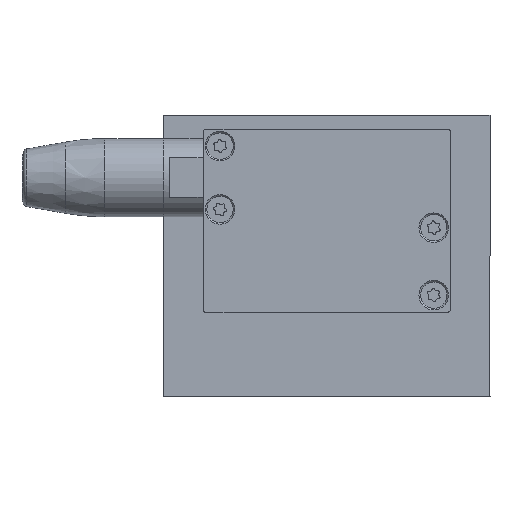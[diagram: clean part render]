
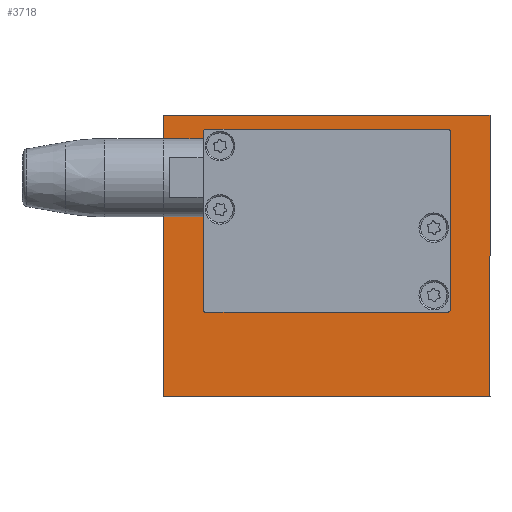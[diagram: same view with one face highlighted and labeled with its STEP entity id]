
A CAD part, top view. The second image highlights one B-rep face of the part: STEP entity #3718.
In plain terms, the highlighted planar face has unit normal (0, 0, 1).
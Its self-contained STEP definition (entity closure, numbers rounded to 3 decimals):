
#230=FACE_BOUND('',#743,.T.);
#279=PLANE('',#4275);
#514=FACE_OUTER_BOUND('',#742,.T.);
#742=EDGE_LOOP('',(#3140,#3141,#3142,#3143));
#743=EDGE_LOOP('',(#3144));
#986=LINE('',#6437,#1222);
#989=LINE('',#6443,#1225);
#992=LINE('',#6449,#1228);
#995=LINE('',#6453,#1231);
#1222=VECTOR('',#5195,10.);
#1225=VECTOR('',#5200,10.);
#1228=VECTOR('',#5205,10.);
#1231=VECTOR('',#5210,10.);
#1479=CIRCLE('',#4269,5.25);
#1803=VERTEX_POINT('',#6427);
#1806=VERTEX_POINT('',#6434);
#1807=VERTEX_POINT('',#6436);
#1809=VERTEX_POINT('',#6442);
#1811=VERTEX_POINT('',#6448);
#2264=EDGE_CURVE('',#1803,#1803,#1479,.T.);
#2267=EDGE_CURVE('',#1807,#1806,#986,.T.);
#2270=EDGE_CURVE('',#1809,#1807,#989,.T.);
#2273=EDGE_CURVE('',#1811,#1809,#992,.T.);
#2276=EDGE_CURVE('',#1806,#1811,#995,.T.);
#3140=ORIENTED_EDGE('',*,*,#2276,.T.);
#3141=ORIENTED_EDGE('',*,*,#2273,.T.);
#3142=ORIENTED_EDGE('',*,*,#2270,.T.);
#3143=ORIENTED_EDGE('',*,*,#2267,.T.);
#3144=ORIENTED_EDGE('',*,*,#2264,.T.);
#3718=ADVANCED_FACE('',(#514,#230),#279,.T.);
#4269=AXIS2_PLACEMENT_3D('',#6429,#5189,#5190);
#4275=AXIS2_PLACEMENT_3D('',#6455,#5213,#5214);
#5189=DIRECTION('center_axis',(0.,0.,-1.));
#5190=DIRECTION('ref_axis',(-1.,0.,0.));
#5195=DIRECTION('',(0.,-1.,0.));
#5200=DIRECTION('',(-1.,0.,0.));
#5205=DIRECTION('',(0.,1.,0.));
#5210=DIRECTION('',(1.,0.,0.));
#5213=DIRECTION('center_axis',(0.,0.,1.));
#5214=DIRECTION('ref_axis',(1.,0.,0.));
#6427=CARTESIAN_POINT('',(5.25,0.,3.));
#6429=CARTESIAN_POINT('Origin',(0.,0.,3.));
#6434=CARTESIAN_POINT('',(-28.,-25.,3.));
#6436=CARTESIAN_POINT('',(-28.,25.,3.));
#6437=CARTESIAN_POINT('',(-28.,-25.,3.));
#6442=CARTESIAN_POINT('',(30.,25.,3.));
#6443=CARTESIAN_POINT('',(-28.,25.,3.));
#6448=CARTESIAN_POINT('',(30.,-25.,3.));
#6449=CARTESIAN_POINT('',(30.,25.,3.));
#6453=CARTESIAN_POINT('',(30.,-25.,3.));
#6455=CARTESIAN_POINT('Origin',(1.,0.,
3.));
